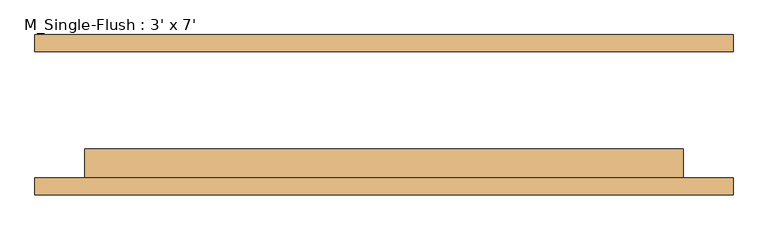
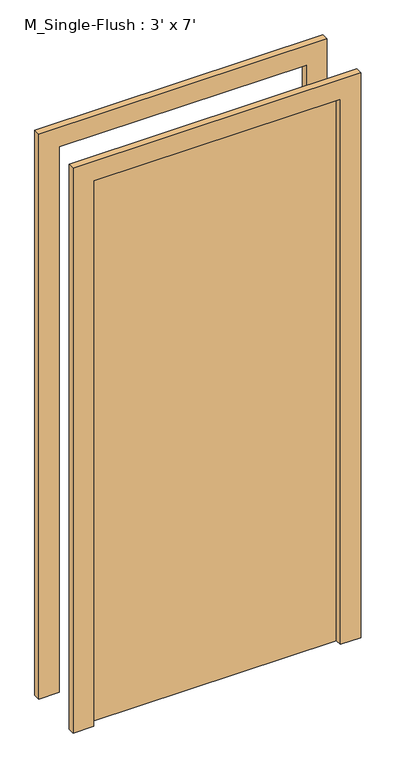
"""IFC4 building model written with IfcOpenShell, lengths in millimetres: door geometry, M_Single-Flush : 3' x 7'."""

from ifc_helpers import new_model, si_unit, frame, origin, origin_with_axes, place, context, project, spatial, polyline, outline, extrude, source, transform, mapped, element, save


def m_single_flush_3_x_7_309cf6f8(model_context):
    return source(origin(), model_context, "Body", "SweptSolid", [
        extrude(outline(polyline([(2209.8, -533.4), (0.0, -533.4), (0.0, -457.2), (2133.6, -457.2), (2133.6, 457.2), (0.0, 457.2), (0.0, 533.4), (2209.8, 533.4), (2209.8, -533.4)])), frame((0.0, -122.4, 0.0), z_axis=(0.0, 1.0, 0.0), x_axis=(0.0, 0.0, 1.0)), (0.0, 0.0, 1.0), 25.4),
        extrude(outline(polyline([(2209.8, 533.4), (2209.8, -533.4), (0.0, -533.4), (0.0, -457.2), (2133.6, -457.2), (2133.6, 457.2), (0.0, 457.2), (0.0, 533.4), (2209.8, 533.4)])), frame((0.0, 97.0, 0.0), z_axis=(0.0, 1.0, 0.0), x_axis=(0.0, 0.0, 1.0)), (0.0, 0.0, 1.0), 25.4),
        extrude(outline(polyline([(457.2, -52.55), (457.2, -97.0), (-457.2, -97.0), (-457.2, -52.55), (457.2, -52.55)])), origin_with_axes(), (0.0, 0.0, 1.0), 2133.6),
    ])


if __name__ == "__main__":
    model = new_model("IFC4")
    model_context = context("Model", 3, world=origin())
    ifc_project = project(units=[si_unit("LENGTHUNIT", "METRE", prefix="MILLI")], contexts=[model_context])
    site = spatial("IfcSite", under=ifc_project)
    building = spatial("IfcBuilding", under=site)
    placement = place(None, origin())
    m_single_flush_3_x_7_shape = m_single_flush_3_x_7_309cf6f8(model_context)
    element("IfcDoor", 1, ObjectType="M_Single-Flush : 3' x 7'", at=placement, inside=building, context=model_context, shape_type="MappedRepresentation", body=[
        mapped(m_single_flush_3_x_7_shape, transform((0.0, 0.0, 0.0), x_axis=(1.0, 0.0, 0.0), y_axis=(0.0, 1.0, 0.0), z_axis=(0.0, 0.0, 1.0))),
    ])
    save(model, "model.ifc")
